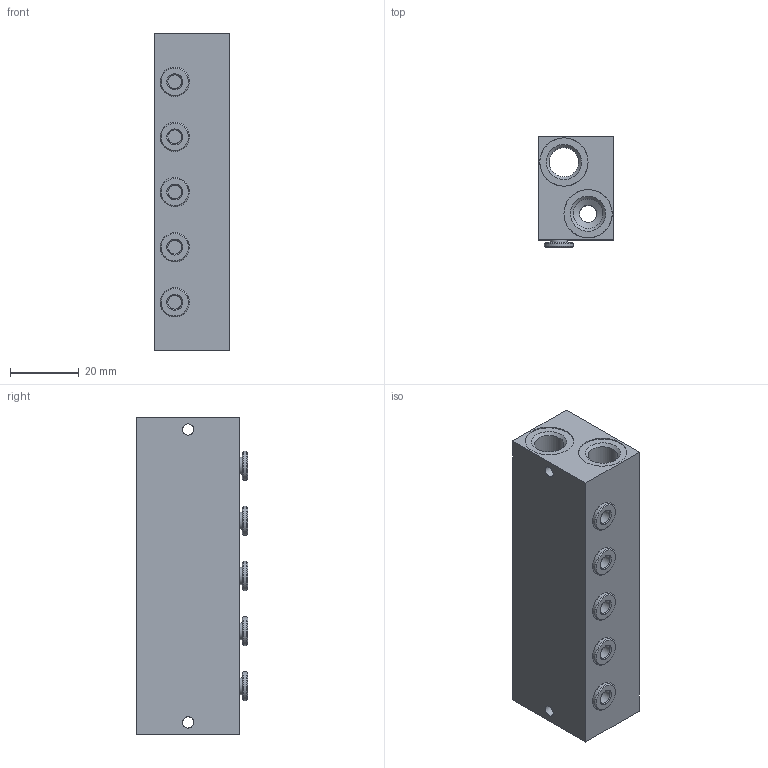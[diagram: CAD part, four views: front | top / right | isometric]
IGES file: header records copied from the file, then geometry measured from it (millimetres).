
Global section: file name: 354_05; native system: Autodesk Inventor 2014; preprocessor: unknown; author: R.Rivoltella; organization: Pneumax S.p.A.; date: 20161003.105211; units: millimetre
Bounding box: 22 x 32.25 x 92 mm (x, y, z)
Volume: 51553.8 mm3; surface area: 17131.6 mm2
Topology: 1 solids, 1 shells, 105 faces, 300 edges, 218 vertices
Faces by surface type: bspline 105
